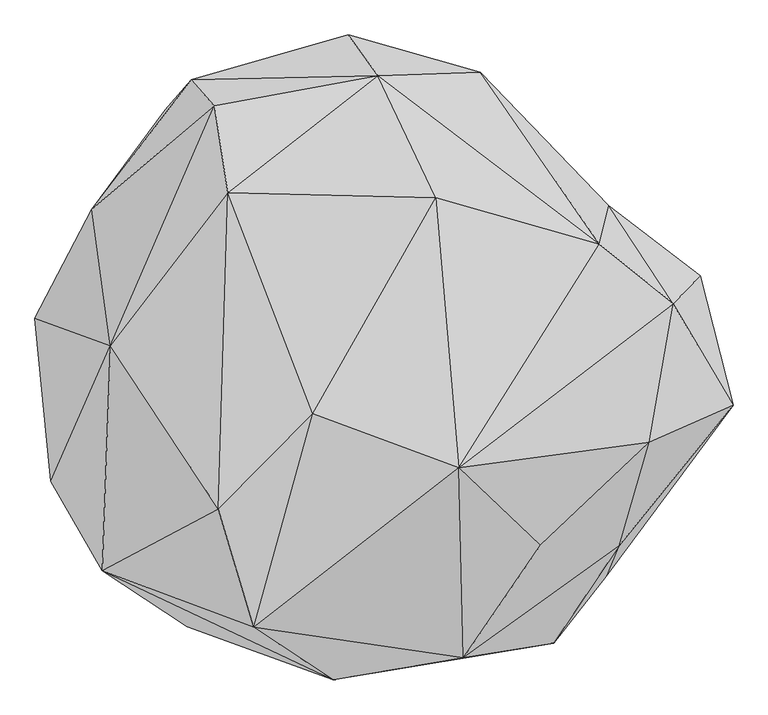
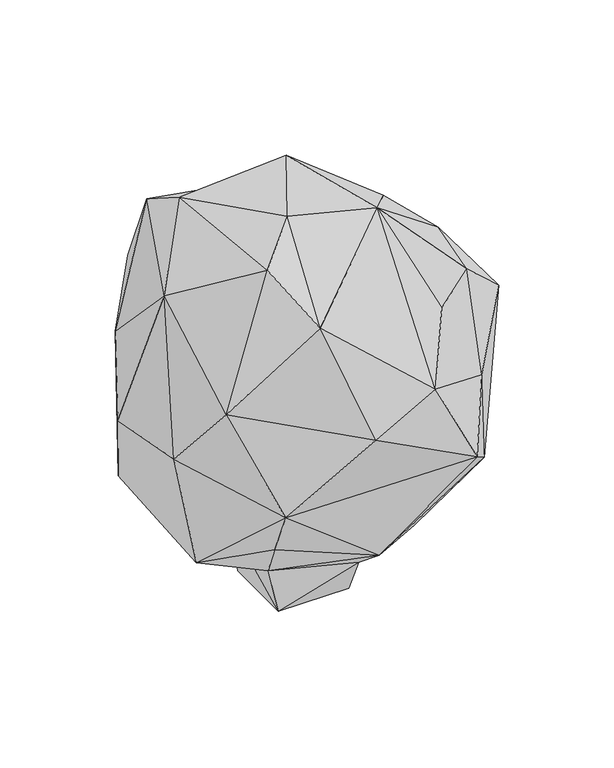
"""IFC4 building model written with IfcOpenShell, lengths in millimetres: geographic element geometry, Enscape AssetDefinition - Bush 132 Rose of Sharon : Enscape AssetDefinition - Bush 132 Rose of Sharon."""

import ifcopenshell
import ifcopenshell.guid

model = None  # the IFC model being written
_history = None  # IfcOwnerHistory: only IFC2X3 demands one
_inside = {}  # id of a spatial element -> (the spatial element, [elements in it])
_under = {}  # id of a project, library or spatial element -> (it, [spatial elements below it])
_declared = {}  # id of a project -> (the project, [libraries it declares])
_typed = {}  # id of a type object -> (the type object, [elements of that type])
_made_of = {}  # id of a material, layer set ... -> (it, [elements and type objects made of it])


def new_model(schema):
    """Start an empty IFC model of exactly this schema.

    Asked for "IFC4X3", IfcOpenShell would pick the latest addendum, in which some entities
    have other attributes; the version numbers below select the first issue.
    IFC2X3 requires an IfcOwnerHistory on every rooted entity: one is made here for all.
    """
    global model, _history
    if schema == "IFC4X3":
        model = ifcopenshell.file(schema_version=(4, 3, 0, 0))
    else:
        model = ifcopenshell.file(schema=schema)
    _inside.clear()
    _under.clear()
    _declared.clear()
    _typed.clear()
    _made_of.clear()
    _history = None
    if model.schema == "IFC2X3":
        org = make("IfcOrganization", Name="unknown")
        user = make(
            "IfcPersonAndOrganization",
            ThePerson=make("IfcPerson", FamilyName="unknown"),
            TheOrganization=org,
        )
        app = make(
            "IfcApplication",
            ApplicationDeveloper=org,
            Version="unknown",
            ApplicationFullName="unknown",
            ApplicationIdentifier="unknown",
        )
        _history = make(
            "IfcOwnerHistory",
            OwningUser=user,
            OwningApplication=app,
            ChangeAction="ADDED",
            CreationDate=0,
        )
    return model


def make(cls, **values):
    """One entity of the class cls with the attributes given. An attribute that is None is left unset."""
    return model.create_entity(
        cls, **{name: value for name, value in values.items() if value is not None}
    )


def rooted(cls, **values):
    """An entity with a GlobalId (a new one), such as an element, a storey or a relation."""
    return make(cls, GlobalId=ifcopenshell.guid.new(), OwnerHistory=_history, **values)


def si_unit(unit_type, name, prefix=None):
    """IfcSIUnit, for example si_unit("LENGTHUNIT", "METRE", prefix="MILLI")."""
    return make("IfcSIUnit", UnitType=unit_type, Prefix=prefix, Name=name)


def assignment(units):
    """IfcUnitAssignment: the units of a project."""
    return None if units is None else make("IfcUnitAssignment", Units=units)


def point(xyz):
    """IfcCartesianPoint."""
    return None if xyz is None else make("IfcCartesianPoint", Coordinates=xyz)


def direction(xyz):
    """IfcDirection."""
    return None if xyz is None else make("IfcDirection", DirectionRatios=xyz)


def frame(location, z_axis=None, x_axis=None):
    """IfcAxis2Placement3D, a coordinate frame: its origin and axes. An axis left out is left unset."""
    return make(
        "IfcAxis2Placement3D",
        Location=point(location),
        Axis=direction(z_axis),
        RefDirection=direction(x_axis),
    )


def origin():
    """The frame at (0, 0, 0) with its axes left unset."""
    return frame((0.0, 0.0, 0.0))


def place(relative_to, where):
    """IfcLocalPlacement: puts the frame where relative to a parent placement (None: the world)."""
    return make(
        "IfcLocalPlacement", PlacementRelTo=relative_to, RelativePlacement=where
    )


def context(
    kind, dimensions, precision=None, world=None, true_north=None, identifier=None
):
    """IfcGeometricRepresentationContext, for example the 3D "Model" context."""
    return make(
        "IfcGeometricRepresentationContext",
        ContextIdentifier=identifier,
        ContextType=kind,
        CoordinateSpaceDimension=dimensions,
        Precision=precision,
        WorldCoordinateSystem=world,
        TrueNorth=true_north,
    )


def project(units=None, contexts=None):
    """IfcProject with its units and contexts."""
    return rooted(
        "IfcProject",
        Name="project",
        RepresentationContexts=contexts,
        UnitsInContext=assignment(units),
    )


def spatial(cls, under=None, at=None, **own):
    """A site, building, storey or space (cls), placed at a placement, below another one or the project."""
    s = rooted(cls, ObjectPlacement=at, **own)
    if under is not None:
        _under.setdefault(under.id(), (under, []))[1].append(s)
    return s


def point_list(points):
    """IfcCartesianPointList2D or 3D."""
    cls = (
        "IfcCartesianPointList2D" if len(points[0]) == 2 else "IfcCartesianPointList3D"
    )
    return make(cls, CoordList=points)


def triangles(points, corners, closed=None, point_numbers=None):
    """IfcTriangulatedFaceSet: each triangle names its three corners, points numbered from 1."""
    return make(
        "IfcTriangulatedFaceSet",
        Coordinates=point_list(points),
        Closed=closed,
        CoordIndex=corners,
        PnIndex=point_numbers,
    )


def shape(context_of_items, identifier, shape_type, items):
    """IfcShapeRepresentation: the items that make up one representation, for example the "Body"."""
    return make(
        "IfcShapeRepresentation",
        ContextOfItems=context_of_items,
        RepresentationIdentifier=identifier,
        RepresentationType=shape_type,
        Items=items,
    )


def source(mapping_origin, context_of_items, identifier, shape_type, items):
    """IfcRepresentationMap: a shape defined once, which mapped items show again and again."""
    return make(
        "IfcRepresentationMap",
        MappingOrigin=mapping_origin,
        MappedRepresentation=shape(context_of_items, identifier, shape_type, items),
    )


def transform(
    local_origin,
    x_axis=None,
    y_axis=None,
    z_axis=None,
    scale=None,
    scale2=None,
    scale3=None,
    uniform=True,
):
    """IfcCartesianTransformationOperator3D, or its non-uniform kind. x_axis, y_axis, z_axis: its Axis1, 2, 3."""
    if uniform:
        return make(
            "IfcCartesianTransformationOperator3D",
            Axis1=direction(x_axis),
            Axis2=direction(y_axis),
            LocalOrigin=point(local_origin),
            Scale=scale,
            Axis3=direction(z_axis),
        )
    return make(
        "IfcCartesianTransformationOperator3DnonUniform",
        Axis1=direction(x_axis),
        Axis2=direction(y_axis),
        LocalOrigin=point(local_origin),
        Scale=scale,
        Axis3=direction(z_axis),
        Scale2=scale2,
        Scale3=scale3,
    )


def mapped(mapping_source, mapping_target):
    """IfcMappedItem: shows the shape of a source again, moved by a transform."""
    return make(
        "IfcMappedItem", MappingSource=mapping_source, MappingTarget=mapping_target
    )


def made_of(thing, what):
    """Note that an element or type object is made of a material, layer set ...; save() writes the relation."""
    if what is not None:
        _made_of.setdefault(what.id(), (what, []))[1].append(thing)
    return thing


def element(
    cls,
    number,
    at=None,
    inside=None,
    cuts=None,
    type_object=None,
    material=None,
    context=None,
    identifier="Body",
    shape_type=None,
    held_by="IfcProductDefinitionShape",
    body=None,
    shapes=None,
    **own,
):
    """One element of the class cls, such as IfcWall. Its Tag is "e" and its number.

    at: its placement. inside: the storey or other place that contains it. cuts: it is an
    opening in that element (IfcRelVoidsElement). A single representation is given by context,
    identifier, shape_type and body (its items); several are given by shapes. held_by: the class
    of the entity that holds the representations. save() writes the other relations.
    """
    e = rooted(cls, Tag="e%d" % number, ObjectPlacement=at, **own)
    if body is not None:
        shapes = [shape(context, identifier, shape_type, body)]
    if shapes is not None:
        e.Representation = make(held_by, Representations=shapes)
    if inside is not None:
        _inside.setdefault(inside.id(), (inside, []))[1].append(e)
    if cuts is not None:
        rooted(
            "IfcRelVoidsElement", RelatingBuildingElement=cuts, RelatedOpeningElement=e
        )
    if type_object is not None:
        _typed.setdefault(type_object.id(), (type_object, []))[1].append(e)
    return made_of(e, material)


def aggregate(whole, parts):
    """IfcRelAggregates: a whole, such as a stair, and the parts it consists of."""
    return rooted("IfcRelAggregates", RelatingObject=whole, RelatedObjects=parts)


def save(model, path):
    """Write the relations noted so far, then the file.

    IfcRelAggregates (storeys below a building ...), IfcRelContainedInSpatialStructure (elements
    in a storey), IfcRelDefinesByType, IfcRelAssociatesMaterial and IfcRelDeclares: one each for
    every whole, place, type object, material and project.
    """
    for whole, parts in _under.values():
        aggregate(whole, parts)
    for where, things in _inside.values():
        rooted(
            "IfcRelContainedInSpatialStructure",
            RelatedElements=things,
            RelatingStructure=where,
        )
    for kind, things in _typed.values():
        rooted("IfcRelDefinesByType", RelatedObjects=things, RelatingType=kind)
    for what, things in _made_of.values():
        rooted("IfcRelAssociatesMaterial", RelatedObjects=things, RelatingMaterial=what)
    for by, libraries in _declared.values():
        rooted("IfcRelDeclares", RelatingContext=by, RelatedDefinitions=libraries)
    model.write(path)


def geographic_element_bd739b93(model_context):
    return source(origin(), model_context, "Body", "Tessellation", [
        triangles([(130.7945691, -104.023011, -25.2817122), (139.9216465, -142.4856161, 80.0401907), (-90.8222179, -104.023011, -25.2817122), (-90.8222179, 117.5937761, -25.2817122), (-413.9756398, 208.8297133, 348.7543302), (-81.2823933, 165.4887905, 84.7305385), (19.3601033, 307.6492084, 171.7843546), (-257.3543132, 354.6202875, 411.4892364), (-130.3271376, -119.0209691, 132.7508723), (-254.5436563, -367.5386487, 396.3400884), (-319.7082107, -53.7102118, 186.307923), (49.0119066, -412.7006086, 299.6071847), (-482.7335069, -213.871157, 684.4034283), (-264.5559267, -446.5345173, 555.0180845), (-387.3164386, 2.9140604, 1064.4882952), (-416.6191195, 221.2000701, 823.408025), (-507.907806, 47.3221524, 662.9169491), (-400.4824227, -356.8898438, 889.9142853), (-214.9591902, -258.4473242, 1246.5624287), (-199.7086312, 247.6692757, 1177.7946058), (40.5382596, 435.090085, 1015.7510084), (-257.8187652, 428.2615047, 895.0273453), (-221.0419403, 387.0080998, 1096.2774885), (-6.9619195, 500.2487168, 753.6575586), (394.7209285, 165.5017257, 1025.16555), (170.336278, -191.9948215, 1279.1105873), (133.6041996, 240.0181257, 1204.6417316), (-63.3345698, -106.1593178, 1281.4108829), (300.5559822, -316.0940054, 976.2878649), (-157.7978537, -447.7747396, 1148.9364109), (177.175886, -496.3072786, 858.0247347), (204.9956995, 440.5254001, 815.8513641), (609.1361112, -92.4463285, 807.790519), (556.452263, 114.7324318, 755.9370707), (513.5648735, 70.076691, 934.9141548), (474.7810126, -151.7539366, 945.6722918), (-30.9049541, -531.3525959, 782.9821495), (321.8545186, -473.0703612, 568.2885681), (426.72686, -316.8478838, 710.6309698), (418.1567436, 0.1044288, 360.2225982), (409.9257417, 227.3126331, 832.596781), (292.8640461, 259.8914221, 277.6383767), (406.3512869, -366.091535, 471.6740075), (490.1450094, 15.8174802, 238.1931099), (276.7850131, -210.0948069, 197.8189573), (117.1790485, 375.2016984, 276.1574351), (130.7945691, 117.5937761, -25.2817122), (-299.6738231, 380.9423, 741.2036676)], [[45, 12, 2], [22, 48, 16], [5, 16, 48], [48, 8, 5], [22, 24, 48], [24, 8, 48], [8, 24, 7], [7, 24, 46], [46, 24, 32], [47, 7, 46], [42, 32, 41], [42, 46, 32], [46, 42, 47], [44, 45, 2], [47, 42, 44], [44, 2, 47], [38, 12, 43], [45, 43, 12], [43, 45, 44], [44, 42, 40], [44, 40, 43], [40, 42, 41], [40, 41, 34], [33, 40, 34], [40, 33, 43], [39, 38, 43], [39, 43, 33], [38, 39, 31], [31, 30, 37], [38, 31, 37], [39, 29, 31], [39, 33, 36], [36, 29, 39], [36, 33, 35], [34, 41, 35], [33, 34, 35], [35, 41, 25], [32, 25, 41], [29, 26, 31], [26, 35, 25], [26, 36, 35], [30, 31, 26], [29, 36, 26], [26, 28, 30], [27, 28, 26], [25, 27, 26], [25, 21, 27], [21, 32, 24], [21, 24, 22], [32, 21, 25], [22, 16, 23], [22, 23, 21], [20, 21, 23], [27, 21, 20], [27, 20, 28], [30, 28, 19], [28, 20, 19], [30, 19, 18], [37, 30, 18], [15, 20, 23], [23, 16, 15], [15, 19, 20], [18, 19, 15], [17, 16, 5], [15, 16, 17], [18, 15, 13], [15, 17, 13], [13, 14, 18], [38, 37, 14], [37, 18, 14], [12, 38, 14], [13, 11, 14], [17, 11, 13], [5, 11, 17], [14, 10, 12], [14, 11, 10], [9, 10, 11], [2, 12, 9], [10, 9, 12], [9, 11, 6], [5, 8, 6], [6, 8, 7], [47, 6, 7], [5, 6, 11], [6, 47, 4], [3, 2, 9], [9, 6, 3], [4, 3, 6], [3, 4, 47], [1, 3, 47], [47, 2, 1], [1, 2, 3]]),
    ])


if __name__ == "__main__":
    model = new_model("IFC4")
    model_context = context("Model", 3, world=origin())
    ifc_project = project(units=[si_unit("LENGTHUNIT", "METRE", prefix="MILLI")], contexts=[model_context])
    site = spatial("IfcSite", under=ifc_project)
    building = spatial("IfcBuilding", under=site)
    placement = place(None, origin())
    geographic_element_shape = geographic_element_bd739b93(model_context)
    element("IfcGeographicElement", 1, ObjectType="Enscape AssetDefinition - Bush 132 Rose of Sharon : Enscape AssetDefinition - Bush 132 Rose of Sharon", at=placement, inside=building, context=model_context, shape_type="MappedRepresentation", body=[
        mapped(geographic_element_shape, transform((0.0, 0.0, 0.0), x_axis=(1.0, 0.0, 0.0), y_axis=(0.0, 1.0, 0.0), z_axis=(0.0, 0.0, 1.0))),
    ])
    save(model, "model.ifc")
